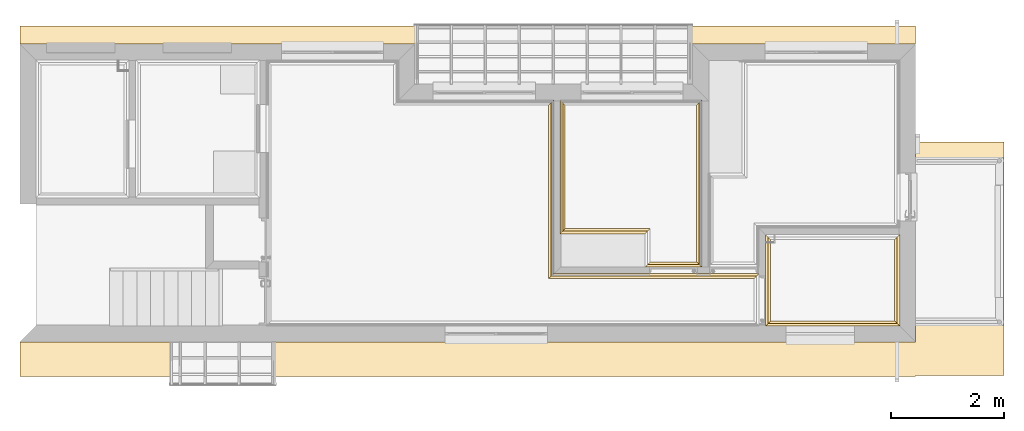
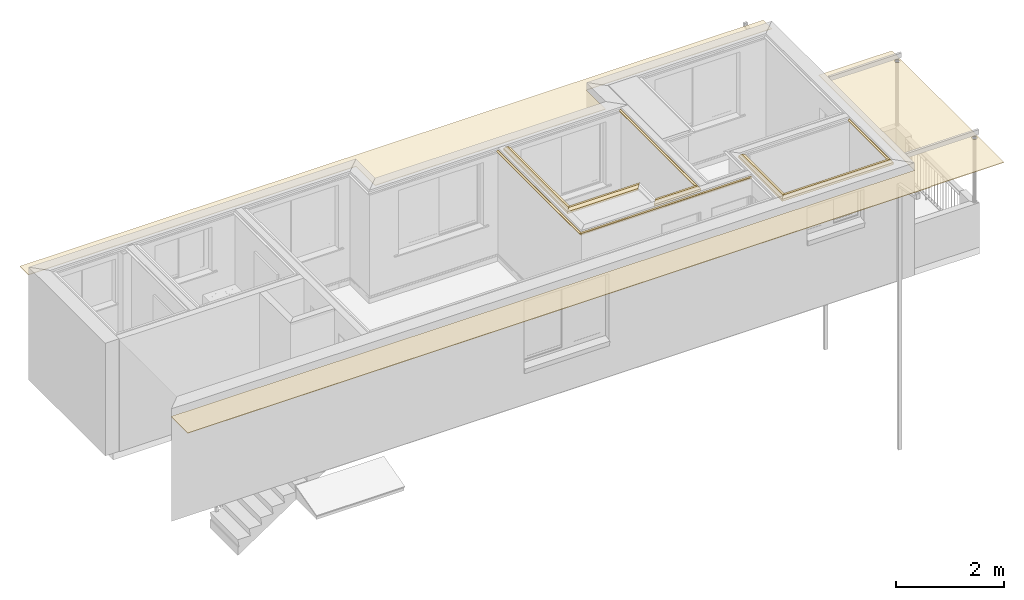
# One storey, part 13 of 18: 10 coverings.
"""IFC2X3 building model written with IfcOpenShell, lengths in millimetres."""

from ifc_helpers import new_model, entity, si_unit, converted_unit, money_unit, direction, frame, origin_with_axes, place, context, subcontext, project, spatial, faceted_brep, source, transform, mapped, material, type_object, element, save


model = new_model("IFC2X3")

# Units and contexts
model_context = context("Model", 3, precision=1e-05, world=origin_with_axes(), true_north=direction((0.0, 1.0)))
body_context = subcontext(model_context, "Body", "Model", "MODEL_VIEW")
ifc_project = project(units=[si_unit("LENGTHUNIT", "METRE", prefix="MILLI"), si_unit("AREAUNIT", "SQUARE_METRE"), si_unit("VOLUMEUNIT", "CUBIC_METRE"), converted_unit("PLANEANGLEUNIT", "DEGREE", entity("IfcPlaneAngleMeasure", 0.0174532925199), si_unit("PLANEANGLEUNIT", "RADIAN"), dimensions=[0, 0, 0, 0, 0, 0, 0]), si_unit("SOLIDANGLEUNIT", "STERADIAN"), money_unit("AUD"), si_unit("TIMEUNIT", "SECOND"), si_unit("MASSUNIT", "GRAM"), si_unit("THERMODYNAMICTEMPERATUREUNIT", "DEGREE_CELSIUS"), si_unit("LUMINOUSINTENSITYUNIT", "LUMEN")], contexts=[model_context])

# Site, building, storey
site_placement = place(None, origin_with_axes())
site = spatial("IfcSite", under=ifc_project, at=site_placement, Name="Lot 1. East Hills", CompositionType="ELEMENT")
building_placement = place(site_placement, origin_with_axes())
building = spatial("IfcBuilding", under=site, at=building_placement, Name="Proposed Units 7 & 8", CompositionType="ELEMENT")
storey_placement = place(building_placement, frame((0.0, 0.0, 5859.0), z_axis=(0.0, 0.0, 1.0), x_axis=(1.0, 0.0, 0.0)))
storey = spatial("IfcBuildingStorey", under=building, at=storey_placement, Name="Level 1", CompositionType="ELEMENT", Elevation=5859.0)

# Coverings
ifc_material = material(Name="50 %")
covering_type_1 = type_object("IfcCoveringType", Name="Molding Straight 12", PredefinedType="NOTDEFINED")
shared_shape_1 = source(origin_with_axes(), body_context, "Body", "Brep", [
    faceted_brep([(-1619.9999994, 0.0, -97.7142857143), (0.0, 0.0, -97.7142857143), (-20.5714285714, -20.5714285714, -97.7142857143), (-1599.42857083, -20.5714285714, -97.7142857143), (-1619.9999994, 0.0, -48.8571428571), (0.0, 0.0, -48.8571428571), (-48.8571428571, -48.8571428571, 0.0), (-90.0, -90.0, 0.0), (-90.0, -90.0, -12.8571428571), (-74.5714285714, -74.5714285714, -12.8571428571), (-74.5714285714, -74.5714285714, -25.7142857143), (-60.5952001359, -60.5952001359, -27.5542910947), (-47.5714285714, -47.5714285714, -32.9489139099), (-36.3876623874, -36.3876623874, -41.5305195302), (-27.8060567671, -27.8060567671, -52.7142857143), (-22.4114339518, -22.4114339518, -65.7380572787), (-20.5714285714, -20.5714285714, -79.7142857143), (-1599.42857083, -20.5714285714, -79.7142857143), (-1597.58856545, -22.4114339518, -65.7380572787), (-1592.19394264, -27.8060567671, -52.7142857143), (-1583.61233702, -36.3876623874, -41.5305195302), (-1572.42857083, -47.5714285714, -32.9489139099), (-1559.40479927, -60.5952001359, -27.5542910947), (-1545.42857083, -74.5714285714, -25.7142857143), (-1545.42857083, -74.5714285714, -12.8571428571), (-1529.9999994, -90.0, -12.8571428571), (-1529.9999994, -90.0, 0.0), (-1571.14285655, -48.8571428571, 0.0)], [[[0, 1, 2, 3]], [[4, 5, 1, 0]], [[1, 5, 6, 7, 8, 9, 10, 11, 12, 13, 14, 15, 16, 2]], [[3, 2, 16, 17]], [[0, 3, 17, 18, 19, 20, 21, 22, 23, 24, 25, 26, 27, 4]], [[27, 6, 5, 4]], [[26, 7, 6, 27]], [[25, 8, 7, 26]], [[24, 9, 8, 25]], [[23, 10, 9, 24]], [[22, 11, 10, 23]], [[21, 12, 11, 22]], [[20, 13, 12, 21]], [[19, 14, 13, 20]], [[18, 15, 14, 19]], [[17, 16, 15, 18]]]),
])
covering_1_placement = place(storey_placement, frame((13175.0000012, 1897.99999873, 2523.0), z_axis=(0.0, 0.0, 1.0), x_axis=(0.0, 1.0, 0.0)))
element("IfcCovering", 1, at=covering_1_placement, inside=storey, type_object=covering_type_1, material=ifc_material, Name="CEL_MOD_125 - Molding Straight 12 - object -", PredefinedType="NOTDEFINED", context=body_context, shape_type="MappedRepresentation", body=[
    mapped(shared_shape_1, transform((0.0, 0.0, 0.0))),
])
shared_shape_2 = source(origin_with_axes(), body_context, "Body", "Brep", [
    faceted_brep([(2955.00000084, 0.0, -97.7142857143), (2934.42857227, -20.5714285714, -97.7142857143), (20.5714285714, -20.5714285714, -97.7142857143), (0.0, 0.0, -97.7142857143), (2955.00000084, 0.0, -48.8571428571), (2906.14285799, -48.8571428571, 0.0), (2865.00000084, -90.0, 0.0), (2865.00000084, -90.0, -12.8571428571), (2880.42857227, -74.5714285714, -12.8571428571), (2880.42857227, -74.5714285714, -25.7142857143), (2894.40480071, -60.5952001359, -27.5542910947), (2907.42857227, -47.5714285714, -32.9489139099), (2918.61233846, -36.3876623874, -41.5305195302), (2927.19394408, -27.8060567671, -52.7142857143), (2932.58856689, -22.4114339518, -65.7380572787), (2934.42857227, -20.5714285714, -79.7142857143), (20.5714285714, -20.5714285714, -79.7142857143), (22.4114339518, -22.4114339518, -65.7380572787), (27.8060567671, -27.8060567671, -52.7142857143), (36.3876623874, -36.3876623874, -41.5305195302), (47.5714285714, -47.5714285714, -32.9489139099), (60.5952001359, -60.5952001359, -27.5542910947), (74.5714285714, -74.5714285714, -25.7142857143), (74.5714285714, -74.5714285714, -12.8571428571), (90.0, -90.0, -12.8571428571), (90.0, -90.0, 0.0), (48.8571428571, -48.8571428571, 0.0), (0.0, 0.0, -48.8571428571)], [[[0, 1, 2, 3]], [[0, 4, 5, 6, 7, 8, 9, 10, 11, 12, 13, 14, 15, 1]], [[1, 15, 16, 2]], [[3, 2, 16, 17, 18, 19, 20, 21, 22, 23, 24, 25, 26, 27]], [[4, 0, 3, 27]], [[5, 4, 27, 26]], [[6, 5, 26, 25]], [[7, 6, 25, 24]], [[8, 7, 24, 23]], [[9, 8, 23, 22]], [[10, 9, 22, 21]], [[11, 10, 21, 20]], [[12, 11, 20, 19]], [[13, 12, 19, 18]], [[14, 13, 18, 17]], [[15, 14, 17, 16]]]),
])
covering_2_placement = place(storey_placement, frame((12049.9999999, 4273.00000069, 2523.0), z_axis=(0.0, 0.0, 1.0), x_axis=(0.0, -1.0, 0.0)))
element("IfcCovering", 2, at=covering_2_placement, inside=storey, type_object=covering_type_1, material=ifc_material, Name="CEL_MOD_124 - Molding Straight 12 - object -", PredefinedType="NOTDEFINED", context=body_context, shape_type="MappedRepresentation", body=[
    mapped(shared_shape_2, transform((0.0, 0.0, 0.0))),
])
shared_shape_3 = source(origin_with_axes(), body_context, "Body", "Brep", [
    faceted_brep([(1005.00002393, 0.0, -97.7142857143), (984.42859536, -20.5714285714, -97.7142857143), (20.5714285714, -20.5714285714, -97.7142857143), (0.0, 0.0, -97.7142857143), (1005.00002393, 0.0, -48.8571428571), (956.142881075, -48.8571428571, 0.0), (915.000023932, -90.0, 0.0), (915.000023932, -90.0, -12.8571428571), (930.42859536, -74.5714285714, -12.8571428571), (930.42859536, -74.5714285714, -25.7142857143), (944.404823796, -60.5952001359, -27.5542910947), (957.42859536, -47.5714285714, -32.9489139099), (968.612361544, -36.3876623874, -41.5305195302), (977.193967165, -27.8060567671, -52.7142857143), (982.58858998, -22.4114339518, -65.7380572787), (984.42859536, -20.5714285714, -79.7142857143), (20.5714285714, -20.5714285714, -79.7142857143), (22.4114339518, -22.4114339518, -65.7380572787), (27.8060567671, -27.8060567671, -52.7142857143), (36.3876623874, -36.3876623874, -41.5305195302), (47.5714285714, -47.5714285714, -32.9489139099), (60.5952001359, -60.5952001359, -27.5542910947), (74.5714285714, -74.5714285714, -25.7142857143), (74.5714285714, -74.5714285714, -12.8571428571), (90.0, -90.0, -12.8571428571), (90.0, -90.0, 0.0), (48.8571428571, -48.8571428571, 0.0), (0.0, 0.0, -48.8571428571)], [[[0, 1, 2, 3]], [[0, 4, 5, 6, 7, 8, 9, 10, 11, 12, 13, 14, 15, 1]], [[1, 15, 16, 2]], [[3, 2, 16, 17, 18, 19, 20, 21, 22, 23, 24, 25, 26, 27]], [[4, 0, 3, 27]], [[5, 4, 27, 26]], [[6, 5, 26, 25]], [[7, 6, 25, 24]], [[8, 7, 24, 23]], [[9, 8, 23, 22]], [[10, 9, 22, 21]], [[11, 10, 21, 20]], [[12, 11, 20, 19]], [[13, 12, 19, 18]], [[14, 13, 18, 17]], [[15, 14, 17, 16]]]),
])
covering_3_placement = place(storey_placement, frame((12049.9999999, 1317.99999985, 2523.0), z_axis=(0.0, 0.0, 1.0), x_axis=(-1.0, 0.0, 0.0)))
element("IfcCovering", 3, at=covering_3_placement, inside=storey, type_object=covering_type_1, material=ifc_material, Name="CEL_MOD_123 - Molding Straight 12 - object -", PredefinedType="NOTDEFINED", context=body_context, shape_type="MappedRepresentation", body=[
    mapped(shared_shape_3, transform((0.0, 0.0, 0.0))),
])
shared_shape_4 = source(origin_with_axes(), body_context, "Body", "Brep", [
    faceted_brep([(1619.9999994, 0.0, -97.7142857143), (1599.42857083, -20.5714285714, -97.7142857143), (20.5714285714, -20.5714285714, -97.7142857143), (0.0, 0.0, -97.7142857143), (1619.9999994, 0.0, -48.8571428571), (1571.14285655, -48.8571428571, 0.0), (1529.9999994, -90.0, 0.0), (1529.9999994, -90.0, -12.8571428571), (1545.42857083, -74.5714285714, -12.8571428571), (1545.42857083, -74.5714285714, -25.7142857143), (1559.40479927, -60.5952001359, -27.5542910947), (1572.42857083, -47.5714285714, -32.9489139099), (1583.61233702, -36.3876623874, -41.5305195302), (1592.19394264, -27.8060567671, -52.7142857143), (1597.58856545, -22.4114339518, -65.7380572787), (1599.42857083, -20.5714285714, -79.7142857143), (20.5714285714, -20.5714285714, -79.7142857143), (22.4114339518, -22.4114339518, -65.7380572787), (27.8060567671, -27.8060567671, -52.7142857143), (36.3876623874, -36.3876623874, -41.5305195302), (47.5714285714, -47.5714285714, -32.9489139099), (60.5952001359, -60.5952001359, -27.5542910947), (74.5714285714, -74.5714285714, -25.7142857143), (74.5714285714, -74.5714285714, -12.8571428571), (90.0, -90.0, -12.8571428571), (90.0, -90.0, 0.0), (48.8571428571, -48.8571428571, 0.0), (0.0, 0.0, -48.8571428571)], [[[0, 1, 2, 3]], [[0, 4, 5, 6, 7, 8, 9, 10, 11, 12, 13, 14, 15, 1]], [[1, 15, 16, 2]], [[3, 2, 16, 17, 18, 19, 20, 21, 22, 23, 24, 25, 26, 27]], [[4, 0, 3, 27]], [[5, 4, 27, 26]], [[6, 5, 26, 25]], [[7, 6, 25, 24]], [[8, 7, 24, 23]], [[9, 8, 23, 22]], [[10, 9, 22, 21]], [[11, 10, 21, 20]], [[12, 11, 20, 19]], [[13, 12, 19, 18]], [[14, 13, 18, 17]], [[15, 14, 17, 16]]]),
])
covering_4_placement = place(storey_placement, frame((15550.0000007, 1897.99999873, 2523.0), z_axis=(0.0, 0.0, 1.0), x_axis=(0.0, -1.0, 0.0)))
element("IfcCovering", 4, at=covering_4_placement, inside=storey, type_object=covering_type_1, material=ifc_material, Name="CEL_MOD_121 - Molding Straight 12 - object -", PredefinedType="NOTDEFINED", context=body_context, shape_type="MappedRepresentation", body=[
    mapped(shared_shape_4, transform((0.0, 0.0, 0.0))),
])
shared_shape_5 = source(origin_with_axes(), body_context, "Body", "Brep", [
    faceted_brep([(2374.99999946, 0.0, -97.7142857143), (2354.42857089, -20.5714285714, -97.7142857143), (20.5714285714, -20.5714285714, -97.7142857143), (0.0, 0.0, -97.7142857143), (2374.99999946, 0.0, -48.8571428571), (2326.14285661, -48.8571428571, 0.0), (2284.99999946, -90.0, 0.0), (2284.99999946, -90.0, -12.8571428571), (2300.42857089, -74.5714285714, -12.8571428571), (2300.42857089, -74.5714285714, -25.7142857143), (2314.40479933, -60.5952001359, -27.5542910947), (2327.42857089, -47.5714285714, -32.9489139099), (2338.61233708, -36.3876623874, -41.5305195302), (2347.1939427, -27.8060567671, -52.7142857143), (2352.58856551, -22.4114339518, -65.7380572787), (2354.42857089, -20.5714285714, -79.7142857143), (20.5714285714, -20.5714285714, -79.7142857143), (22.4114339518, -22.4114339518, -65.7380572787), (27.8060567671, -27.8060567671, -52.7142857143), (36.3876623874, -36.3876623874, -41.5305195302), (47.5714285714, -47.5714285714, -32.9489139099), (60.5952001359, -60.5952001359, -27.5542910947), (74.5714285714, -74.5714285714, -25.7142857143), (74.5714285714, -74.5714285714, -12.8571428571), (90.0, -90.0, -12.8571428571), (90.0, -90.0, 0.0), (48.8571428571, -48.8571428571, 0.0), (0.0, 0.0, -48.8571428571)], [[[0, 1, 2, 3]], [[0, 4, 5, 6, 7, 8, 9, 10, 11, 12, 13, 14, 15, 1]], [[1, 15, 16, 2]], [[3, 2, 16, 17, 18, 19, 20, 21, 22, 23, 24, 25, 26, 27]], [[4, 0, 3, 27]], [[5, 4, 27, 26]], [[6, 5, 26, 25]], [[7, 6, 25, 24]], [[8, 7, 24, 23]], [[9, 8, 23, 22]], [[10, 9, 22, 21]], [[11, 10, 21, 20]], [[12, 11, 20, 19]], [[13, 12, 19, 18]], [[14, 13, 18, 17]], [[15, 14, 17, 16]]]),
])
covering_5_placement = place(storey_placement, frame((15550.0000007, 277.999999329, 2523.0), z_axis=(0.0, 0.0, 1.0), x_axis=(-1.0, 0.0, 0.0)))
element("IfcCovering", 5, at=covering_5_placement, inside=storey, type_object=covering_type_1, material=ifc_material, Name="CEL_MOD_120 - Molding Straight 12 - object -", PredefinedType="NOTDEFINED", context=body_context, shape_type="MappedRepresentation", body=[
    mapped(shared_shape_5, transform((0.0, 0.0, 0.0))),
])
shared_shape_6 = source(origin_with_axes(), body_context, "Body", "Brep", [
    faceted_brep([(-2364.34348223, 0.0, -97.7142857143), (0.0, 0.0, -97.7142857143), (-20.5714285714, -20.5714285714, -97.7142857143), (-2343.77205366, -20.5714285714, -97.7142857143), (-2364.34348223, 0.0, -48.8571428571), (0.0, 0.0, -48.8571428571), (-48.8571428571, -48.8571428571, 0.0), (-90.0, -90.0, 0.0), (-90.0, -90.0, -12.8571428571), (-74.5714285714, -74.5714285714, -12.8571428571), (-74.5714285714, -74.5714285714, -25.7142857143), (-60.5952001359, -60.5952001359, -27.5542910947), (-47.5714285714, -47.5714285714, -32.9489139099), (-36.3876623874, -36.3876623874, -41.5305195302), (-27.8060567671, -27.8060567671, -52.7142857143), (-22.4114339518, -22.4114339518, -65.7380572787), (-20.5714285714, -20.5714285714, -79.7142857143), (-2343.77205366, -20.5714285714, -79.7142857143), (-2341.93204828, -22.4114339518, -65.7380572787), (-2336.53742546, -27.8060567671, -52.7142857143), (-2327.95581984, -36.3876623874, -41.5305195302), (-2316.77205366, -47.5714285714, -32.9489139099), (-2303.74828209, -60.5952001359, -27.5542910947), (-2289.77205366, -74.5714285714, -25.7142857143), (-2289.77205366, -74.5714285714, -12.8571428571), (-2274.34348223, -90.0, -12.8571428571), (-2274.34348223, -90.0, 0.0), (-2315.48633937, -48.8571428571, 0.0)], [[[0, 1, 2, 3]], [[4, 5, 1, 0]], [[1, 5, 6, 7, 8, 9, 10, 11, 12, 13, 14, 15, 16, 2]], [[3, 2, 16, 17]], [[0, 3, 17, 18, 19, 20, 21, 22, 23, 24, 25, 26, 27, 4]], [[27, 6, 5, 4]], [[26, 7, 6, 27]], [[25, 8, 7, 26]], [[24, 9, 8, 25]], [[23, 10, 9, 24]], [[22, 11, 10, 23]], [[21, 12, 11, 22]], [[20, 13, 12, 21]], [[19, 14, 13, 20]], [[18, 15, 14, 19]], [[17, 16, 15, 18]]]),
])
covering_6_placement = place(storey_placement, frame((9544.99999896, 4273.00000067, 2523.0), z_axis=(0.0, 0.0, 1.0), x_axis=(0.0, 1.0, 0.0)))
element("IfcCovering", 6, at=covering_6_placement, inside=storey, type_object=covering_type_1, material=ifc_material, Name="CEL_MOD_118 - Molding Straight 12 - object -", PredefinedType="NOTDEFINED", context=body_context, shape_type="MappedRepresentation", body=[
    mapped(shared_shape_6, transform((0.0, 0.0, 0.0))),
])
shared_shape_7 = source(origin_with_axes(), body_context, "Body", "Brep", [
    faceted_brep([(-3630.0000016, 0.0, -97.7142857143), (0.0, 0.0, -97.7142857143), (-20.5714285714, -20.5714285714, -97.7142857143), (-3650.57143017, -20.5714285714, -97.7142857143), (-3630.0000016, 0.0, -48.8571428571), (0.0, 0.0, -48.8571428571), (-48.8571428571, -48.8571428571, 0.0), (-90.0, -90.0, 0.0), (-90.0, -90.0, -12.8571428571), (-74.5714285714, -74.5714285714, -12.8571428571), (-74.5714285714, -74.5714285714, -25.7142857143), (-60.5952001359, -60.5952001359, -27.5542910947), (-47.5714285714, -47.5714285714, -32.9489139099), (-36.3876623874, -36.3876623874, -41.5305195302), (-27.8060567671, -27.8060567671, -52.7142857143), (-22.4114339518, -22.4114339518, -65.7380572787), (-20.5714285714, -20.5714285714, -79.7142857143), (-3650.57143017, -20.5714285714, -79.7142857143), (-3652.41143555, -22.4114339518, -65.7380572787), (-3657.80605837, -27.8060567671, -52.7142857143), (-3666.38766399, -36.3876623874, -41.5305195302), (-3677.57143017, -47.5714285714, -32.9489139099), (-3690.59520174, -60.5952001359, -27.5542910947), (-3704.57143017, -74.5714285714, -25.7142857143), (-3704.57143017, -74.5714285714, -12.8571428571), (-3720.0000016, -90.0, -12.8571428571), (-3720.0000016, -90.0, 0.0), (-3678.85714446, -48.8571428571, 0.0)], [[[0, 1, 2, 3]], [[4, 5, 1, 0]], [[1, 5, 6, 7, 8, 9, 10, 11, 12, 13, 14, 15, 16, 2]], [[3, 2, 16, 17]], [[0, 3, 17, 18, 19, 20, 21, 22, 23, 24, 25, 26, 27, 4]], [[27, 6, 5, 4]], [[26, 7, 6, 27]], [[25, 8, 7, 26]], [[24, 9, 8, 25]], [[23, 10, 9, 24]], [[22, 11, 10, 23]], [[21, 12, 11, 22]], [[20, 13, 12, 21]], [[19, 14, 13, 20]], [[18, 15, 14, 19]], [[17, 16, 15, 18]]]),
])
covering_7_placement = place(storey_placement, frame((13065.0000012, 1208.00000045, 2523.0), z_axis=(0.0, 0.0, 1.0), x_axis=(1.0, 0.0, 0.0)))
element("IfcCovering", 7, at=covering_7_placement, inside=storey, type_object=covering_type_1, material=ifc_material, Name="CEL_MOD_117 - Molding Straight 12 - object -", PredefinedType="NOTDEFINED", context=body_context, shape_type="MappedRepresentation", body=[
    mapped(shared_shape_7, transform((0.0, 0.0, 0.0))),
])
shared_shape_8 = source(origin_with_axes(), body_context, "Body", "Brep", [
    faceted_brep([(3065.00000022, 0.0, -97.7142857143), (3085.57142879, -20.5714285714, -97.7142857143), (20.5714285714, -20.5714285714, -97.7142857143), (0.0, 0.0, -97.7142857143), (3065.00000022, 0.0, -48.8571428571), (3113.85714308, -48.8571428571, 0.0), (3155.00000022, -90.0, 0.0), (3155.00000022, -90.0, -12.8571428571), (3139.57142879, -74.5714285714, -12.8571428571), (3139.57142879, -74.5714285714, -25.7142857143), (3125.59520036, -60.5952001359, -27.5542910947), (3112.57142879, -47.5714285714, -32.9489139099), (3101.38766261, -36.3876623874, -41.5305195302), (3092.80605699, -27.8060567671, -52.7142857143), (3087.41143418, -22.4114339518, -65.7380572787), (3085.57142879, -20.5714285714, -79.7142857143), (20.5714285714, -20.5714285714, -79.7142857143), (22.4114339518, -22.4114339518, -65.7380572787), (27.8060567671, -27.8060567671, -52.7142857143), (36.3876623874, -36.3876623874, -41.5305195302), (47.5714285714, -47.5714285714, -32.9489139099), (60.5952001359, -60.5952001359, -27.5542910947), (74.5714285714, -74.5714285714, -25.7142857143), (74.5714285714, -74.5714285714, -12.8571428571), (90.0, -90.0, -12.8571428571), (90.0, -90.0, 0.0), (48.8571428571, -48.8571428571, 0.0), (0.0, 0.0, -48.8571428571)], [[[0, 1, 2, 3]], [[0, 4, 5, 6, 7, 8, 9, 10, 11, 12, 13, 14, 15, 1]], [[1, 15, 16, 2]], [[3, 2, 16, 17, 18, 19, 20, 21, 22, 23, 24, 25, 26, 27]], [[4, 0, 3, 27]], [[5, 4, 27, 26]], [[6, 5, 26, 25]], [[7, 6, 25, 24]], [[8, 7, 24, 23]], [[9, 8, 23, 22]], [[10, 9, 22, 21]], [[11, 10, 21, 20]], [[12, 11, 20, 19]], [[13, 12, 19, 18]], [[14, 13, 18, 17]], [[15, 14, 17, 16]]]),
])
covering_8_placement = place(storey_placement, frame((9434.99999955, 4273.00000067, 2523.0), z_axis=(0.0, 0.0, 1.0), x_axis=(0.0, -1.0, 0.0)))
element("IfcCovering", 8, at=covering_8_placement, inside=storey, type_object=covering_type_1, material=ifc_material, Name="CEL_MOD_113 - Molding Straight 12 - object -", PredefinedType="NOTDEFINED", context=body_context, shape_type="MappedRepresentation", body=[
    mapped(shared_shape_8, transform((0.0, 0.0, 0.0))),
])
shared_shape_9 = source(origin_with_axes(), body_context, "Body", "Brep", [
    faceted_brep([(-1499.99998574, 0.0, -97.7142857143), (0.0, 0.0, -97.7142857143), (-20.5714285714, -20.5714285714, -97.7142857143), (-1520.57141432, -20.5714285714, -97.7142857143), (-1499.99998574, 0.0, -48.8571428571), (0.0, 0.0, -48.8571428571), (-48.8571428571, -48.8571428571, 0.0), (-90.0, -90.0, 0.0), (-90.0, -90.0, -12.8571428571), (-74.5714285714, -74.5714285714, -12.8571428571), (-74.5714285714, -74.5714285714, -25.7142857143), (-60.5952001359, -60.5952001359, -27.5542910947), (-47.5714285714, -47.5714285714, -32.9489139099), (-36.3876623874, -36.3876623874, -41.5305195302), (-27.8060567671, -27.8060567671, -52.7142857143), (-22.4114339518, -22.4114339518, -65.7380572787), (-20.5714285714, -20.5714285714, -79.7142857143), (-1520.57141432, -20.5714285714, -79.7142857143), (-1522.4114197, -22.4114339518, -65.7380572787), (-1527.80604251, -27.8060567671, -52.7142857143), (-1536.38764813, -36.3876623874, -41.5305195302), (-1547.57141432, -47.5714285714, -32.9489139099), (-1560.59518588, -60.5952001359, -27.5542910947), (-1574.57141432, -74.5714285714, -25.7142857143), (-1574.57141432, -74.5714285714, -12.8571428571), (-1589.99998574, -90.0, -12.8571428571), (-1589.99998574, -90.0, 0.0), (-1548.8571286, -48.8571428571, 0.0)], [[[0, 1, 2, 3]], [[4, 5, 1, 0]], [[1, 5, 6, 7, 8, 9, 10, 11, 12, 13, 14, 15, 16, 2]], [[3, 2, 16, 17]], [[0, 3, 17, 18, 19, 20, 21, 22, 23, 24, 25, 26, 27, 4]], [[27, 6, 5, 4]], [[26, 7, 6, 27]], [[25, 8, 7, 26]], [[24, 9, 8, 25]], [[23, 10, 9, 24]], [[22, 11, 10, 23]], [[21, 12, 11, 22]], [[20, 13, 12, 21]], [[19, 14, 13, 20]], [[18, 15, 14, 19]], [[17, 16, 15, 18]]]),
])
covering_9_placement = place(storey_placement, frame((9544.99999027, 1908.65651844, 2523.0), z_axis=(0.0, 0.0, 1.0), x_axis=(-1.0, 0.0, 0.0)))
element("IfcCovering", 9, at=covering_9_placement, inside=storey, type_object=covering_type_1, material=ifc_material, Name="CEL_MOD_108 - Molding Straight 12 - object -", PredefinedType="NOTDEFINED", context=body_context, shape_type="MappedRepresentation", body=[
    mapped(shared_shape_9, transform((0.0, 0.0, 0.0))),
])
covering_type_2 = type_object("IfcCoveringType", Name="EAVES FC LINNING", PredefinedType="NOTDEFINED")
shared_shape_10 = source(origin_with_axes(), body_context, "Body", "Brep", [
    faceted_brep([(0.0, 5876.9259198, 0.0), (6975.0, 5876.9259198, 0.0), (6975.0, 5876.9259198, 13.0), (0.0, 5876.9259198, 13.0), (0.0, 6192.6421968, 0.0), (15830.0, 6192.6421968, 0.0), (15830.0, 5876.9259198, 0.0), (11880.0, 5876.9259198, 0.0), (11880.0, 5167.6421968, 0.0), (6975.0, 5167.6421968, 0.0), (6975.0, 5167.6421968, 13.0), (11880.0, 5167.6421968, 13.0), (11880.0, 5876.9259198, 13.0), (15830.0, 5876.9259198, 13.0), (15830.0, 6192.6421968, 13.0), (0.0, 6192.6421968, 13.0)], [[[0, 1, 2, 3]], [[0, 4, 5, 6, 7, 8, 9, 1]], [[1, 9, 10, 2]], [[3, 2, 10, 11, 12, 13, 14, 15]], [[4, 0, 3, 15]], [[5, 4, 15, 14]], [[6, 5, 14, 13]], [[7, 6, 13, 12]], [[8, 7, 12, 11]], [[9, 8, 11, 10]]]),
    faceted_brep([(0.0, 612.642219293, 0.0), (0.0, 0.0, 0.0), (0.0, 0.0, 13.0), (0.0, 612.642219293, 13.0), (15830.0000109, 612.642219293, 0.0), (15830.0000109, 4150.02348521, 0.0), (17391.7614523, 4150.02348521, 0.0), (17391.7614523, 15.0241280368, 0.0), (15830.0000109, 15.0241280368, 0.0), (15830.0000109, 0.0, 0.0), (17260.0, 964.64222899, 0.0), (17260.0, 960.267795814, 0.0), (17261.5192247, 951.6518444, 0.0), (17264.5115132, 943.430599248, 0.0), (17268.8859464, 935.853858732, 0.0), (17274.5096093, 929.151838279, 0.0), (17281.2116297, 923.528175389, 0.0), (17288.7883703, 919.153742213, 0.0), (17297.0096154, 916.161453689, 0.0), (17305.6255668, 914.64222899, 0.0), (17314.3744332, 914.64222899, 0.0), (17322.9903846, 916.161453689, 0.0), (17331.2116297, 919.153742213, 0.0), (17338.7883703, 923.528175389, 0.0), (17345.4903907, 929.151838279, 0.0), (17351.1140536, 935.853858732, 0.0), (17353.3012702, 939.64222899, 0.0), (17355.4884868, 943.430599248, 0.0), (17358.4807753, 951.6518444, 0.0), (17360.0, 960.267795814, 0.0), (17360.0, 969.016662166, 0.0), (17358.4807753, 977.63261358, 0.0), (17355.4884868, 985.853858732, 0.0), (17351.1140536, 993.430599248, 0.0), (17345.4903907, 1000.1326197, 0.0), (17338.7883703, 1005.75628259, 0.0), (17331.2116297, 1010.13071577, 0.0), (17322.9903846, 1013.12300429, 0.0), (17314.3744332, 1014.64222899, 0.0), (17311.8875908, 1014.6065863, 0.0), (17307.5162759, 1014.77172909, 0.0), (17298.8491129, 1013.57885519, 0.0), (17290.520764, 1010.89906666, 0.0), (17282.7842818, 1006.81378753, 0.0), (17275.8747354, 1001.44714693, 0.0), (17270.002068, 994.962207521, 0.0), (17265.3447174, 987.556010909, 0.0), (17262.044195, 979.453590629, 0.0), (17260.2007855, 970.90113462, 0.0), (17353.3012702, 3789.87028707, 0.0), (17355.4884868, 3793.65865732, 0.0), (17358.4807753, 3801.87990247, 0.0), (17360.0, 3810.49585389, 0.0), (17360.0, 3819.24472024, 0.0), (17358.4807753, 3827.86067166, 0.0), (17355.4884868, 3836.08191681, 0.0), (17351.1140536, 3843.65865732, 0.0), (17345.4903907, 3850.36067778, 0.0), (17338.7883703, 3855.98434067, 0.0), (17331.2116297, 3860.35877384, 0.0), (17322.9903846, 3863.35106237, 0.0), (17314.3744332, 3864.87028707, 0.0), (17310.0, 3864.87028707, 0.0), (17305.6255668, 3864.87028707, 0.0), (17297.0096154, 3863.35106237, 0.0), (17288.7883703, 3860.35877384, 0.0), (17281.2116297, 3855.98434067, 0.0), (17274.5096093, 3850.36067778, 0.0), (17268.8859464, 3843.65865732, 0.0), (17264.5115132, 3836.08191681, 0.0), (17261.5192247, 3827.86067166, 0.0), (17260.0, 3819.24472024, 0.0), (17260.0, 3810.49585389, 0.0), (17261.5192247, 3801.87990247, 0.0), (17264.5115132, 3793.65865732, 0.0), (17266.6987298, 3789.87028707, 0.0), (17268.8859464, 3786.08191681, 0.0), (17274.5096093, 3779.37989635, 0.0), (17281.2116297, 3773.75623346, 0.0), (17288.7883703, 3769.38180029, 0.0), (17297.0096154, 3766.38951176, 0.0), (17305.6255668, 3764.87028707, 0.0), (17314.3744332, 3764.87028707, 0.0), (17322.9903846, 3766.38951176, 0.0), (17331.2116297, 3769.38180029, 0.0), (17338.7883703, 3773.75623346, 0.0), (17345.4903907, 3779.37989635, 0.0), (17351.1140536, 3786.08191681, 0.0), (15830.0000109, 0.0, 13.0), (15830.0000109, 15.0241280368, 13.0), (17391.7614523, 15.0241280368, 13.0), (17391.7614523, 4150.02348521, 13.0), (15830.0000109, 4150.02348521, 13.0), (15830.0000109, 612.642219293, 13.0), (17260.0, 964.64222899, 13.0), (17260.2007855, 970.90113462, 13.0), (17262.044195, 979.453590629, 13.0), (17265.3447174, 987.556010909, 13.0), (17270.002068, 994.962207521, 13.0), (17275.8747354, 1001.44714693, 13.0), (17282.7842818, 1006.81378753, 13.0), (17290.520764, 1010.89906666, 13.0), (17298.8491129, 1013.57885519, 13.0), (17307.5162759, 1014.77172909, 13.0), (17311.8875908, 1014.6065863, 13.0), (17314.3744332, 1014.64222899, 13.0), (17322.9903846, 1013.12300429, 13.0), (17331.2116297, 1010.13071577, 13.0), (17338.7883703, 1005.75628259, 13.0), (17345.4903907, 1000.1326197, 13.0), (17351.1140536, 993.430599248, 13.0), (17355.4884868, 985.853858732, 13.0), (17358.4807753, 977.63261358, 13.0), (17360.0, 969.016662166, 13.0), (17360.0, 960.267795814, 13.0), (17358.4807753, 951.6518444, 13.0), (17355.4884868, 943.430599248, 13.0), (17353.3012702, 939.64222899, 13.0), (17351.1140536, 935.853858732, 13.0), (17345.4903907, 929.151838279, 13.0), (17338.7883703, 923.528175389, 13.0), (17331.2116297, 919.153742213, 13.0), (17322.9903846, 916.161453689, 13.0), (17314.3744332, 914.64222899, 13.0), (17305.6255668, 914.64222899, 13.0), (17297.0096154, 916.161453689, 13.0), (17288.7883703, 919.153742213, 13.0), (17281.2116297, 923.528175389, 13.0), (17274.5096093, 929.151838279, 13.0), (17268.8859464, 935.853858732, 13.0), (17264.5115132, 943.430599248, 13.0), (17261.5192247, 951.6518444, 13.0), (17260.0, 960.267795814, 13.0), (17353.3012702, 3789.87028707, 13.0), (17351.1140536, 3786.08191681, 13.0), (17345.4903907, 3779.37989635, 13.0), (17338.7883703, 3773.75623346, 13.0), (17331.2116297, 3769.38180029, 13.0), (17322.9903846, 3766.38951176, 13.0), (17314.3744332, 3764.87028707, 13.0), (17305.6255668, 3764.87028707, 13.0), (17297.0096154, 3766.38951176, 13.0), (17288.7883703, 3769.38180029, 13.0), (17281.2116297, 3773.75623346, 13.0), (17274.5096093, 3779.37989635, 13.0), (17268.8859464, 3786.08191681, 13.0), (17266.6987298, 3789.87028707, 13.0), (17264.5115132, 3793.65865732, 13.0), (17261.5192247, 3801.87990247, 13.0), (17260.0, 3810.49585389, 13.0), (17260.0, 3819.24472024, 13.0), (17261.5192247, 3827.86067166, 13.0), (17264.5115132, 3836.08191681, 13.0), (17268.8859464, 3843.65865732, 13.0), (17274.5096093, 3850.36067778, 13.0), (17281.2116297, 3855.98434067, 13.0), (17288.7883703, 3860.35877384, 13.0), (17297.0096154, 3863.35106237, 13.0), (17305.6255668, 3864.87028707, 13.0), (17310.0, 3864.87028707, 13.0), (17314.3744332, 3864.87028707, 13.0), (17322.9903846, 3863.35106237, 13.0), (17331.2116297, 3860.35877384, 13.0), (17338.7883703, 3855.98434067, 13.0), (17345.4903907, 3850.36067778, 13.0), (17351.1140536, 3843.65865732, 13.0), (17355.4884868, 3836.08191681, 13.0), (17358.4807753, 3827.86067166, 13.0), (17360.0, 3819.24472024, 13.0), (17360.0, 3810.49585389, 13.0), (17358.4807753, 3801.87990247, 13.0), (17355.4884868, 3793.65865732, 13.0)], [[[0, 1, 2, 3]], [[0, 4, 5, 6, 7, 8, 9, 1], [10, 11, 12, 13, 14, 15, 16, 17, 18, 19, 20, 21, 22, 23, 24, 25, 26, 27, 28, 29, 30, 31, 32, 33, 34, 35, 36, 37, 38, 39, 40, 41, 42, 43, 44, 45, 46, 47, 48], [49, 50, 51, 52, 53, 54, 55, 56, 57, 58, 59, 60, 61, 62, 63, 64, 65, 66, 67, 68, 69, 70, 71, 72, 73, 74, 75, 76, 77, 78, 79, 80, 81, 82, 83, 84, 85, 86, 87]], [[1, 9, 88, 2]], [[3, 2, 88, 89, 90, 91, 92, 93], [94, 95, 96, 97, 98, 99, 100, 101, 102, 103, 104, 105, 106, 107, 108, 109, 110, 111, 112, 113, 114, 115, 116, 117, 118, 119, 120, 121, 122, 123, 124, 125, 126, 127, 128, 129, 130, 131, 132], [133, 134, 135, 136, 137, 138, 139, 140, 141, 142, 143, 144, 145, 146, 147, 148, 149, 150, 151, 152, 153, 154, 155, 156, 157, 158, 159, 160, 161, 162, 163, 164, 165, 166, 167, 168, 169, 170, 171]], [[4, 0, 3, 93]], [[5, 4, 93, 92]], [[6, 5, 92, 91]], [[7, 6, 91, 90]], [[8, 7, 90, 89]], [[9, 8, 89, 88]], [[11, 10, 94, 132]], [[12, 11, 132, 131]], [[13, 12, 131, 130]], [[14, 13, 130, 129]], [[15, 14, 129, 128]], [[16, 15, 128, 127]], [[17, 16, 127, 126]], [[18, 17, 126, 125]], [[19, 18, 125, 124]], [[20, 19, 124, 123]], [[21, 20, 123, 122]], [[22, 21, 122, 121]], [[23, 22, 121, 120]], [[24, 23, 120, 119]], [[25, 24, 119, 118]], [[26, 25, 118, 117]], [[27, 26, 117, 116]], [[28, 27, 116, 115]], [[29, 28, 115, 114]], [[30, 29, 114, 113]], [[31, 30, 113, 112]], [[32, 31, 112, 111]], [[33, 32, 111, 110]], [[34, 33, 110, 109]], [[35, 34, 109, 108]], [[36, 35, 108, 107]], [[37, 36, 107, 106]], [[38, 37, 106, 105]], [[39, 38, 105, 104]], [[40, 39, 104, 103]], [[41, 40, 103, 102]], [[42, 41, 102, 101]], [[43, 42, 101, 100]], [[44, 43, 100, 99]], [[45, 44, 99, 98]], [[46, 45, 98, 97]], [[47, 46, 97, 96]], [[48, 47, 96, 95]], [[10, 48, 95, 94]], [[50, 49, 133, 171]], [[51, 50, 171, 170]], [[52, 51, 170, 169]], [[53, 52, 169, 168]], [[54, 53, 168, 167]], [[55, 54, 167, 166]], [[56, 55, 166, 165]], [[57, 56, 165, 164]], [[58, 57, 164, 163]], [[59, 58, 163, 162]], [[60, 59, 162, 161]], [[61, 60, 161, 160]], [[62, 61, 160, 159]], [[63, 62, 159, 158]], [[64, 63, 158, 157]], [[65, 64, 157, 156]], [[66, 65, 156, 155]], [[67, 66, 155, 154]], [[68, 67, 154, 153]], [[69, 68, 153, 152]], [[70, 69, 152, 151]], [[71, 70, 151, 150]], [[72, 71, 150, 149]], [[73, 72, 149, 148]], [[74, 73, 148, 147]], [[75, 74, 147, 146]], [[76, 75, 146, 145]], [[77, 76, 145, 144]], [[78, 77, 144, 143]], [[79, 78, 143, 142]], [[80, 79, 142, 141]], [[81, 80, 141, 140]], [[82, 81, 140, 139]], [[83, 82, 139, 138]], [[84, 83, 138, 137]], [[85, 84, 137, 136]], [[86, 85, 136, 135]], [[87, 86, 135, 134]], [[49, 87, 134, 133]]]),
])
covering_10_placement = place(storey_placement, frame((-0.000422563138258, -614.659801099, 2354.20231014), z_axis=(0.0, 0.0, 1.0), x_axis=(1.0, 0.0, 0.0)))
element("IfcCovering", 10, at=covering_10_placement, inside=storey, type_object=covering_type_2, material=ifc_material, Name="CEL-MOD-G39 - EAVES FC LINNING - object -", PredefinedType="CEILING", context=body_context, shape_type="MappedRepresentation", body=[
    mapped(shared_shape_10, transform((0.0, 0.0, 0.0))),
])

save(model, "model.ifc")
